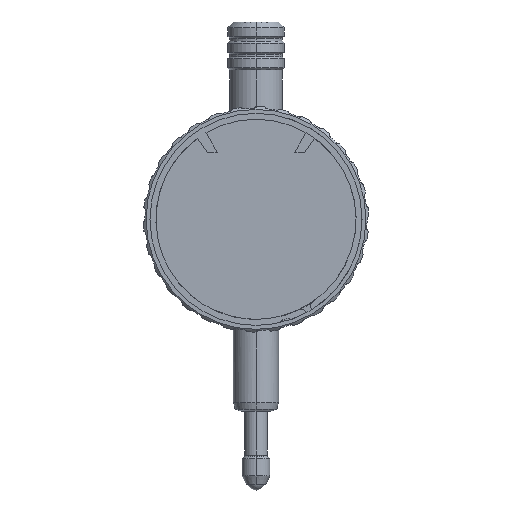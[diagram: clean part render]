
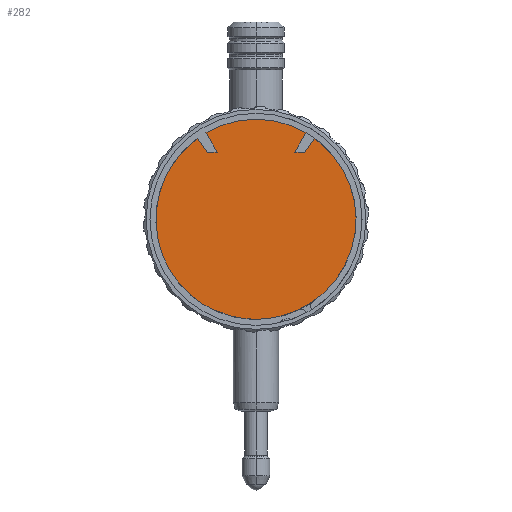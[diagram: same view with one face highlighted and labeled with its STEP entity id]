
A CAD part, front view. The second image highlights one B-rep face of the part: STEP entity #282.
In plain terms, the highlighted planar face has unit normal (0, -1, 0).
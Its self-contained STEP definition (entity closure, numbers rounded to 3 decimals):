
#282=ADVANCED_FACE('',(#803,#804),#805,.T.);
#803=FACE_BOUND('',#1382,.T.);
#804=FACE_OUTER_BOUND('',#1383,.T.);
#805=PLANE('',#1384);
#1382=EDGE_LOOP('',(#3461,#3462,#3463,#3464,#3465,#3466,#3467,#3468,#3469,#3470,#3471,#3472,#3473,#3474,#3475,#3476));
#1383=EDGE_LOOP('',(#3477,#3478));
#1384=AXIS2_PLACEMENT_3D('',#3479,#3480,#3481);
#3461=ORIENTED_EDGE('',*,*,#4501,.T.);
#3462=ORIENTED_EDGE('',*,*,#4502,.T.);
#3463=ORIENTED_EDGE('',*,*,#4503,.T.);
#3464=ORIENTED_EDGE('',*,*,#4504,.T.);
#3465=ORIENTED_EDGE('',*,*,#3888,.T.);
#3466=ORIENTED_EDGE('',*,*,#3870,.T.);
#3467=ORIENTED_EDGE('',*,*,#4505,.T.);
#3468=ORIENTED_EDGE('',*,*,#4506,.T.);
#3469=ORIENTED_EDGE('',*,*,#3878,.T.);
#3470=ORIENTED_EDGE('',*,*,#4507,.T.);
#3471=ORIENTED_EDGE('',*,*,#4508,.T.);
#3472=ORIENTED_EDGE('',*,*,#4509,.T.);
#3473=ORIENTED_EDGE('',*,*,#4510,.T.);
#3474=ORIENTED_EDGE('',*,*,#3876,.T.);
#3475=ORIENTED_EDGE('',*,*,#3886,.T.);
#3476=ORIENTED_EDGE('',*,*,#4511,.T.);
#3477=ORIENTED_EDGE('',*,*,#4443,.F.);
#3478=ORIENTED_EDGE('',*,*,#4003,.F.);
#3479=CARTESIAN_POINT('',(0.,-12.15,0.));
#3480=DIRECTION('',(0.0,-1.0,0.0));
#3481=DIRECTION('',(1.0,0.0,0.0));
#3870=EDGE_CURVE('',#4762,#4759,#4763,.T.);
#3876=EDGE_CURVE('',#4768,#4772,#4774,.T.);
#3878=EDGE_CURVE('',#4778,#4775,#4779,.T.);
#3886=EDGE_CURVE('',#4772,#4791,#4794,.T.);
#3888=EDGE_CURVE('',#4796,#4762,#4797,.T.);
#4003=EDGE_CURVE('',#5012,#5008,#5014,.T.);
#4443=EDGE_CURVE('',#5008,#5012,#5736,.T.);
#4501=EDGE_CURVE('',#5801,#5802,#5803,.T.);
#4502=EDGE_CURVE('',#5802,#5804,#5805,.T.);
#4503=EDGE_CURVE('',#5804,#5806,#5807,.T.);
#4504=EDGE_CURVE('',#5806,#4796,#5808,.T.);
#4505=EDGE_CURVE('',#4759,#5809,#5810,.T.);
#4506=EDGE_CURVE('',#5809,#4778,#5811,.T.);
#4507=EDGE_CURVE('',#4775,#5812,#5813,.T.);
#4508=EDGE_CURVE('',#5812,#5814,#5815,.T.);
#4509=EDGE_CURVE('',#5814,#5816,#5817,.T.);
#4510=EDGE_CURVE('',#5816,#4768,#5818,.T.);
#4511=EDGE_CURVE('',#4791,#5801,#5819,.T.);
#4759=VERTEX_POINT('',#6019);
#4762=VERTEX_POINT('',#6023);
#4763=CIRCLE('',#6024,0.75);
#4768=VERTEX_POINT('',#6030);
#4772=VERTEX_POINT('',#6035);
#4774=CIRCLE('',#6038,0.75);
#4775=VERTEX_POINT('',#6039);
#4778=VERTEX_POINT('',#6043);
#4779=CIRCLE('',#6044,19.25);
#4791=VERTEX_POINT('',#6059);
#4794=CIRCLE('',#6063,17.75);
#4796=VERTEX_POINT('',#6065);
#4797=CIRCLE('',#6066,17.75);
#5008=VERTEX_POINT('',#7543);
#5012=VERTEX_POINT('',#7548);
#5014=CIRCLE('',#7551,19.35);
#5736=CIRCLE('',#11755,19.35);
#5801=VERTEX_POINT('',#12035);
#5802=VERTEX_POINT('',#12036);
#5803=LINE('',#12037,#12038);
#5804=VERTEX_POINT('',#12039);
#5805=LINE('',#12040,#12041);
#5806=VERTEX_POINT('',#12042);
#5807=LINE('',#12043,#12044);
#5808=CIRCLE('',#12045,17.75);
#5809=VERTEX_POINT('',#12046);
#5810=CIRCLE('',#12047,0.75);
#5811=CIRCLE('',#12048,19.25);
#5812=VERTEX_POINT('',#12049);
#5813=CIRCLE('',#12050,19.25);
#5814=VERTEX_POINT('',#12051);
#5815=CIRCLE('',#12052,2.0);
#5816=VERTEX_POINT('',#12053);
#5817=CIRCLE('',#12054,19.25);
#5818=CIRCLE('',#12055,0.75);
#5819=CIRCLE('',#12056,17.75);
#6019=CARTESIAN_POINT('',(-9.745,-12.15,-15.679));
#6023=CARTESIAN_POINT('',(-9.973,-12.15,-14.683));
#6024=AXIS2_PLACEMENT_3D('',#12304,#12305,#12306);
#6030=CARTESIAN_POINT('',(-8.706,-12.15,-16.279));
#6035=CARTESIAN_POINT('',(-7.73,-12.15,-15.979));
#6038=AXIS2_PLACEMENT_3D('',#12316,#12317,#12318);
#6039=CARTESIAN_POINT('',(16.671,-12.15,9.625));
#6043=CARTESIAN_POINT('',(-16.671,-12.15,-9.625));
#6044=AXIS2_PLACEMENT_3D('',#12320,#12321,#12322);
#6059=CARTESIAN_POINT('',(15.372,-12.15,8.875));
#6063=AXIS2_PLACEMENT_3D('',#12336,#12337,#12338);
#6065=CARTESIAN_POINT('',(-15.372,-12.15,-8.875));
#6066=AXIS2_PLACEMENT_3D('',#12342,#12343,#12344);
#7543=CARTESIAN_POINT('',(0.,-12.15,-19.35));
#7548=CARTESIAN_POINT('',(0.,-12.15,19.35));
#7551=AXIS2_PLACEMENT_3D('',#12438,#12439,#12440);
#11755=AXIS2_PLACEMENT_3D('',#13007,#13008,#13009);
#12035=CARTESIAN_POINT('',(10.388,-12.15,14.393));
#12036=CARTESIAN_POINT('',(8.595,-12.15,11.908));
#12037=CARTESIAN_POINT('',(4.746,-12.15,6.575));
#12038=VECTOR('',#13065,1.0);
#12039=CARTESIAN_POINT('',(6.875,-12.15,11.908));
#12040=CARTESIAN_POINT('',(3.867,-12.15,11.908));
#12041=VECTOR('',#13066,1.0);
#12042=CARTESIAN_POINT('',(8.875,-12.15,15.372));
#12043=CARTESIAN_POINT('',(3.938,-12.15,6.82));
#12044=VECTOR('',#13067,1.0);
#12045=AXIS2_PLACEMENT_3D('',#13068,#13069,#13070);
#12046=CARTESIAN_POINT('',(-10.816,-12.15,-15.924));
#12047=AXIS2_PLACEMENT_3D('',#13071,#13072,#13073);
#12048=AXIS2_PLACEMENT_3D('',#13074,#13075,#13076);
#12049=CARTESIAN_POINT('',(-3.761,-12.15,-18.879));
#12050=AXIS2_PLACEMENT_3D('',#13077,#13078,#13079);
#12051=CARTESIAN_POINT('',(-6.815,-12.15,-18.003));
#12052=AXIS2_PLACEMENT_3D('',#13080,#13081,#13082);
#12053=CARTESIAN_POINT('',(-8.383,-12.15,-17.329));
#12054=AXIS2_PLACEMENT_3D('',#13083,#13084,#13085);
#12055=AXIS2_PLACEMENT_3D('',#13086,#13087,#13088);
#12056=AXIS2_PLACEMENT_3D('',#13089,#13090,#13091);
#12304=CARTESIAN_POINT('',(-10.394,-12.15,-15.304));
#12305=DIRECTION('',(0.0,1.0,0.0));
#12306=DIRECTION('',(0.866,-0.0,-0.5));
#12316=CARTESIAN_POINT('',(-8.056,-12.15,-16.654));
#12317=DIRECTION('',(0.0,1.0,0.0));
#12318=DIRECTION('',(0.866,-0.0,-0.5));
#12320=CARTESIAN_POINT('',(0.,-12.15,0.));
#12321=DIRECTION('',(0.0,1.0,-0.0));
#12322=DIRECTION('',(0.866,0.0,0.5));
#12336=CARTESIAN_POINT('',(0.,-12.15,0.));
#12337=DIRECTION('',(0.0,-1.0,0.0));
#12338=DIRECTION('',(0.866,0.0,0.5));
#12342=CARTESIAN_POINT('',(0.,-12.15,0.));
#12343=DIRECTION('',(0.0,-1.0,0.0));
#12344=DIRECTION('',(0.866,0.0,0.5));
#12438=CARTESIAN_POINT('',(0.,-12.15,0.));
#12439=DIRECTION('',(0.0,1.0,0.0));
#12440=DIRECTION('',(0.0,0.0,-1.0));
#13007=CARTESIAN_POINT('',(0.,-12.15,0.));
#13008=DIRECTION('',(0.0,1.0,0.0));
#13009=DIRECTION('',(0.0,0.0,-1.0));
#13065=DIRECTION('',(-0.585,0.0,-0.811));
#13066=DIRECTION('',(-1.0,0.0,0.));
#13067=DIRECTION('',(0.5,0.0,0.866));
#13068=CARTESIAN_POINT('',(0.,-12.15,0.));
#13069=DIRECTION('',(0.0,-1.0,0.0));
#13070=DIRECTION('',(0.866,0.0,0.5));
#13071=CARTESIAN_POINT('',(-10.394,-12.15,-15.304));
#13072=DIRECTION('',(0.0,1.0,0.0));
#13073=DIRECTION('',(0.866,-0.0,-0.5));
#13074=CARTESIAN_POINT('',(0.,-12.15,0.));
#13075=DIRECTION('',(0.0,1.0,-0.0));
#13076=DIRECTION('',(0.866,0.0,0.5));
#13077=CARTESIAN_POINT('',(0.,-12.15,0.));
#13078=DIRECTION('',(0.0,1.0,-0.0));
#13079=DIRECTION('',(0.866,0.0,0.5));
#13080=CARTESIAN_POINT('',(-5.623,-12.15,-19.61));
#13081=DIRECTION('',(0.0,-1.0,0.0));
#13082=DIRECTION('',(0.866,0.0,-0.5));
#13083=CARTESIAN_POINT('',(0.,-12.15,0.));
#13084=DIRECTION('',(0.0,1.0,-0.0));
#13085=DIRECTION('',(0.866,0.0,0.5));
#13086=CARTESIAN_POINT('',(-8.056,-12.15,-16.654));
#13087=DIRECTION('',(0.0,1.0,0.0));
#13088=DIRECTION('',(0.866,-0.0,-0.5));
#13089=CARTESIAN_POINT('',(0.,-12.15,0.));
#13090=DIRECTION('',(0.0,-1.0,0.0));
#13091=DIRECTION('',(0.866,0.0,0.5));
